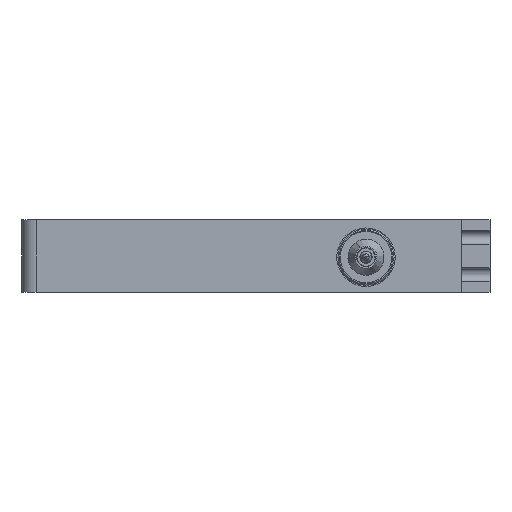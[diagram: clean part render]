
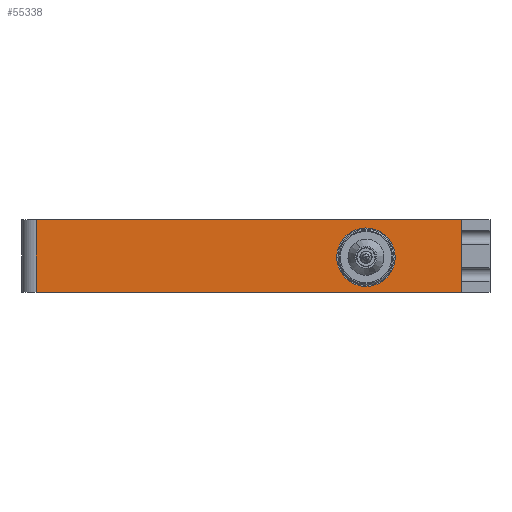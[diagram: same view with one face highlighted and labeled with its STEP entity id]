
A CAD part, front view. The second image highlights one B-rep face of the part: STEP entity #55338.
In plain terms, the highlighted planar face has unit normal (0, -1, 0).
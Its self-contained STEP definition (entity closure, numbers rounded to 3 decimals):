
#2532 = ORIENTED_EDGE ( 'NONE', *, *, #48274, .F. ) ;
#3264 = VECTOR ( 'NONE', #34593, 1000. ) ;
#4086 = FACE_OUTER_BOUND ( 'NONE', #41887, .T. ) ;
#5078 = AXIS2_PLACEMENT_3D ( 'NONE', #48005, #34445, #9127 ) ;
#5080 = DIRECTION ( 'NONE',  ( 1., 0., 0. ) ) ;
#5288 = DIRECTION ( 'NONE',  ( -1., 0., 0. ) ) ;
#7894 = VERTEX_POINT ( 'NONE', #38114 ) ;
#7944 = ORIENTED_EDGE ( 'NONE', *, *, #10318, .F. ) ;
#8700 = DIRECTION ( 'NONE',  ( 0., -1., 0. ) ) ;
#9127 = DIRECTION ( 'NONE',  ( 0., 0., 1. ) ) ;
#10318 = EDGE_CURVE ( 'NONE', #47134, #21254, #45685, .T. ) ;
#10515 = DIRECTION ( 'NONE',  ( 0., 0., 1. ) ) ;
#11365 = CIRCLE ( 'NONE', #22180, 6.25 ) ;
#13493 = LINE ( 'NONE', #26590, #47207 ) ;
#13542 = LINE ( 'NONE', #43655, #3264 ) ;
#13858 = LINE ( 'NONE', #18096, #45415 ) ;
#14323 = EDGE_LOOP ( 'NONE', ( #17378, #2532 ) ) ;
#15334 = CARTESIAN_POINT ( 'NONE',  ( 23.5, -95., 6. ) ) ;
#15705 = CARTESIAN_POINT ( 'NONE',  ( -47., -95., -7.75 ) ) ;
#15733 = VERTEX_POINT ( 'NONE', #15334 ) ;
#15828 = EDGE_CURVE ( 'NONE', #7894, #47134, #13493, .T. ) ;
#15980 = VERTEX_POINT ( 'NONE', #28809 ) ;
#16478 = CARTESIAN_POINT ( 'NONE',  ( 23.5, -95., -0.25 ) ) ;
#17231 = CARTESIAN_POINT ( 'NONE',  ( 23.5, -95., -0.25 ) ) ;
#17378 = ORIENTED_EDGE ( 'NONE', *, *, #37654, .F. ) ;
#18096 = CARTESIAN_POINT ( 'NONE',  ( -50., -95., 7.75 ) ) ;
#18704 = ORIENTED_EDGE ( 'NONE', *, *, #15828, .F. ) ;
#19244 = ORIENTED_EDGE ( 'NONE', *, *, #28594, .F. ) ;
#21254 = VERTEX_POINT ( 'NONE', #41842 ) ;
#21322 = AXIS2_PLACEMENT_3D ( 'NONE', #17231, #8700, #30041 ) ;
#22180 = AXIS2_PLACEMENT_3D ( 'NONE', #16478, #33827, #42574 ) ;
#26590 = CARTESIAN_POINT ( 'NONE',  ( 0., -95., -7.75 ) ) ;
#26754 = CIRCLE ( 'NONE', #21322, 6.25 ) ;
#28594 = EDGE_CURVE ( 'NONE', #15980, #7894, #13542, .T. ) ;
#28809 = CARTESIAN_POINT ( 'NONE',  ( 44., -95., 7.75 ) ) ;
#30041 = DIRECTION ( 'NONE',  ( 0., 0., -1. ) ) ;
#33827 = DIRECTION ( 'NONE',  ( 0., -1., 0. ) ) ;
#34445 = DIRECTION ( 'NONE',  ( 0., 1., 0. ) ) ;
#34593 = DIRECTION ( 'NONE',  ( 0., 0., -1. ) ) ;
#34846 = EDGE_CURVE ( 'NONE', #21254, #15980, #13858, .T. ) ;
#36432 = ORIENTED_EDGE ( 'NONE', *, *, #34846, .F. ) ;
#37654 = EDGE_CURVE ( 'NONE', #53437, #15733, #26754, .T. ) ;
#38114 = CARTESIAN_POINT ( 'NONE',  ( 44., -95., -7.75 ) ) ;
#38418 = PLANE ( 'NONE',  #5078 ) ;
#38926 = VECTOR ( 'NONE', #10515, 1000. ) ;
#41842 = CARTESIAN_POINT ( 'NONE',  ( -47., -95., 7.75 ) ) ;
#41887 = EDGE_LOOP ( 'NONE', ( #36432, #7944, #18704, #19244 ) ) ;
#42574 = DIRECTION ( 'NONE',  ( 0., 0., -1. ) ) ;
#43655 = CARTESIAN_POINT ( 'NONE',  ( 44., -95., 7.75 ) ) ;
#43778 = FACE_BOUND ( 'NONE', #14323, .T. ) ;
#44839 = CARTESIAN_POINT ( 'NONE',  ( -47., -95., 7.75 ) ) ;
#45415 = VECTOR ( 'NONE', #5080, 1000. ) ;
#45685 = LINE ( 'NONE', #44839, #38926 ) ;
#47134 = VERTEX_POINT ( 'NONE', #15705 ) ;
#47207 = VECTOR ( 'NONE', #5288, 1000. ) ;
#48005 = CARTESIAN_POINT ( 'NONE',  ( -50., -95., 7.75 ) ) ;
#48274 = EDGE_CURVE ( 'NONE', #15733, #53437, #11365, .T. ) ;
#53437 = VERTEX_POINT ( 'NONE', #54036 ) ;
#54036 = CARTESIAN_POINT ( 'NONE',  ( 23.5, -95., -6.5 ) ) ;
#55338 = ADVANCED_FACE ( 'NONE', ( #4086, #43778 ), #38418, .F. ) ;
